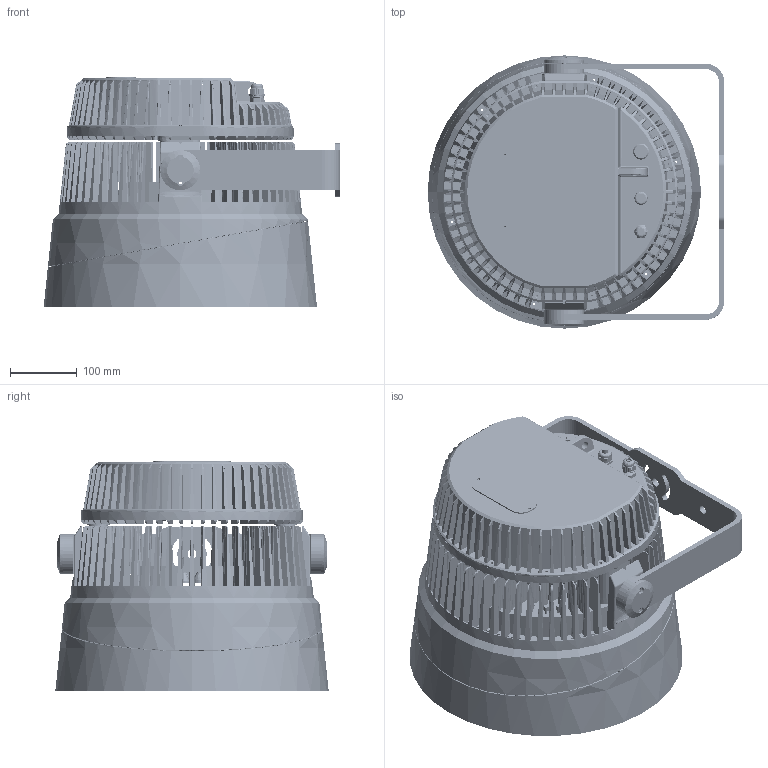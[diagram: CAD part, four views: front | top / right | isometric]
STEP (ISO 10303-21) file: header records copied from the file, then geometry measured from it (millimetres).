
FILE_DESCRIPTION (( 'STEP AP203' ), '1' );
FILE_NAME ('ew300-faces.STEP', '2016-01-18T07:04:38', ( 'Martin Gruppen A/S' ), ( 'Martin Gruppen A/S' ), 'SwSTEP 2.0', 'SolidWorks 2014', '' );
FILE_SCHEMA (( 'CONFIG_CONTROL_DESIGN' ));
Products named in the file (1): ew300-faces
Bounding box: 444.97 x 409.94 x 344.5 mm (x, y, z)
Surface area: 1929937.3 mm2 (no closed solid volume)
Topology: 0 solids, 1191 shells, 9181 faces, 41316 edges, 32727 vertices
Faces by surface type: bspline 5833, plane 1842, cylinder 1092, cone 402, torus 12
Entity records: 571150 total; most frequent: CARTESIAN_POINT 330130, ORIENTED_EDGE 56291, EDGE_CURVE 41311, VERTEX_POINT 32727, B_SPLINE_CURVE_WITH_KNOTS 30733, DIRECTION 21591, EDGE_LOOP 10161, FACE_OUTER_BOUND 9181
